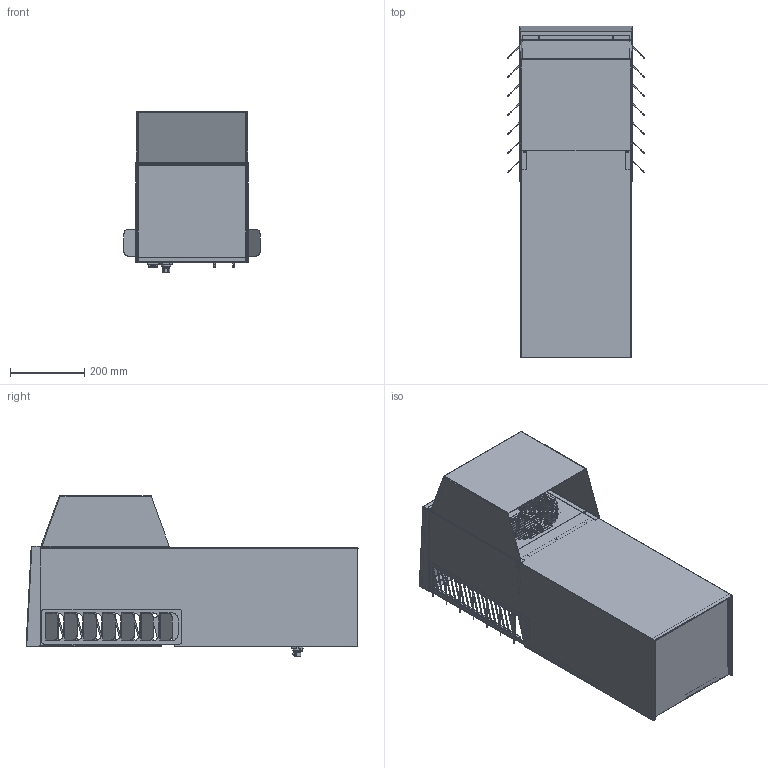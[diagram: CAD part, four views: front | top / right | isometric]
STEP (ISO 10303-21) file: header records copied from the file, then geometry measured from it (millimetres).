
FILE_DESCRIPTION (( 'STEP AP214' ), '1' );
FILE_NAME ('PKS 180W Unit (outdoor).STEP', '2018-06-04T19:00:37', ( '' ), ( '' ), 'SwSTEP 2.0', 'SolidWorks 2017', '' );
FILE_SCHEMA (( 'AUTOMOTIVE_DESIGN' ));
Length unit declared in the file: millimetre
Products named in the file (1): PKS 180W Unit (outdoor)
Bounding box: 369.97 x 896.98 x 434.83 mm (x, y, z)
Volume: 14130226.9 mm3; surface area: 4522221.7 mm2
Topology: 26 solids, 55 shells, 4306 faces, 11454 edges, 7196 vertices
Faces by surface type: plane 1949, cylinder 1702, bspline 317, torus 258, cone 72, sphere 8
Entity records: 235851 total; most frequent: CARTESIAN_POINT 120467, ORIENTED_EDGE 22676, DIRECTION 22256, EDGE_CURVE 11338, AXIS2_PLACEMENT_3D 7867, VERTEX_POINT 7172, VECTOR 6522, LINE 6522
